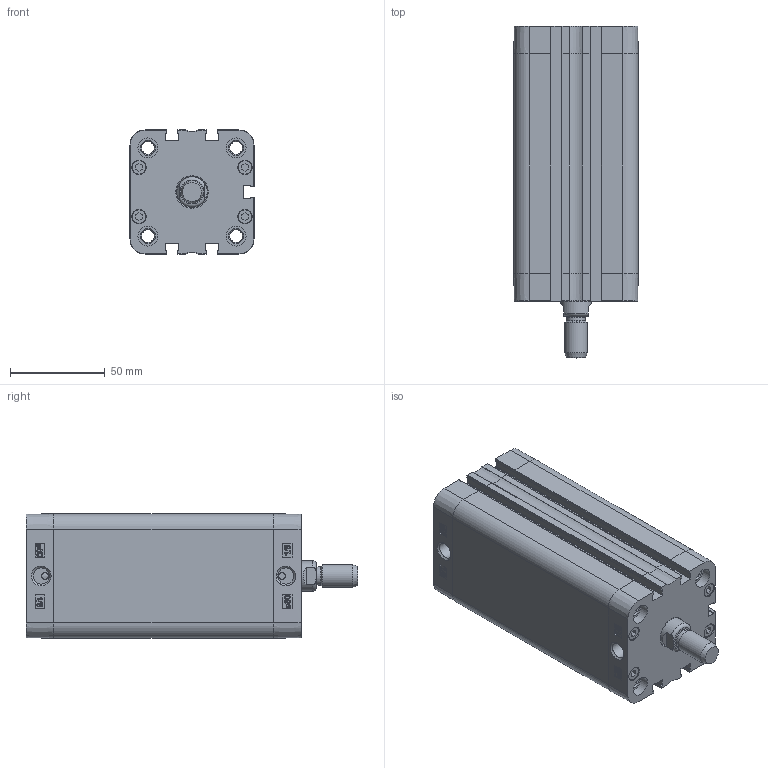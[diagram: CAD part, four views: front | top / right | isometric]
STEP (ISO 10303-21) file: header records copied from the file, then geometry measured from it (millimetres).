
FILE_DESCRIPTION((''),'2;1');
FILE_NAME('T:\Archivio Inventor\- CATALOGHI 2012\SERIE P - NUOVA\PDM\PDM050\PDM050.---.GS.M\PDM050.100.GS.M.stp','2013-02-01T12:21:33',('Administrator'),(''),'Autodesk Inventor 2012','Autodesk Inventor 2012','');
FILE_SCHEMA(('CONFIG_CONTROL_DESIGN'));
Length unit declared in the file: millimetre
Products named in the file (1): PDM050.100.GS.M
Bounding box: 65.5 x 175 x 65.5 mm (x, y, z)
Volume: 286247.8 mm3; surface area: 113239.7 mm2
Topology: 2 solids, 6 shells, 780 faces, 1860 edges, 1167 vertices
Faces by surface type: plane 335, bspline 196, cylinder 131, torus 56, cone 46, sphere 16
Full cylindrical faces by diameter (mm): 3.5 x2, 5.2 x4, 6.647 x8, 7.5 x8, 7.7 x8, 8.047 x4, 8.566 x2, 10 x1, 10.5 x8, 12 x2, 16 x1, 16.5 x1, 50 x1, 52.4 x1, 52.6 x1
Entity records: 25595 total; most frequent: CARTESIAN_POINT 8480, ORIENTED_EDGE 3488, DIRECTION 2866, EDGE_CURVE 1744, VERTEX_POINT 1148, AXIS2_PLACEMENT_3D 978, EDGE_LOOP 962, VECTOR 910
